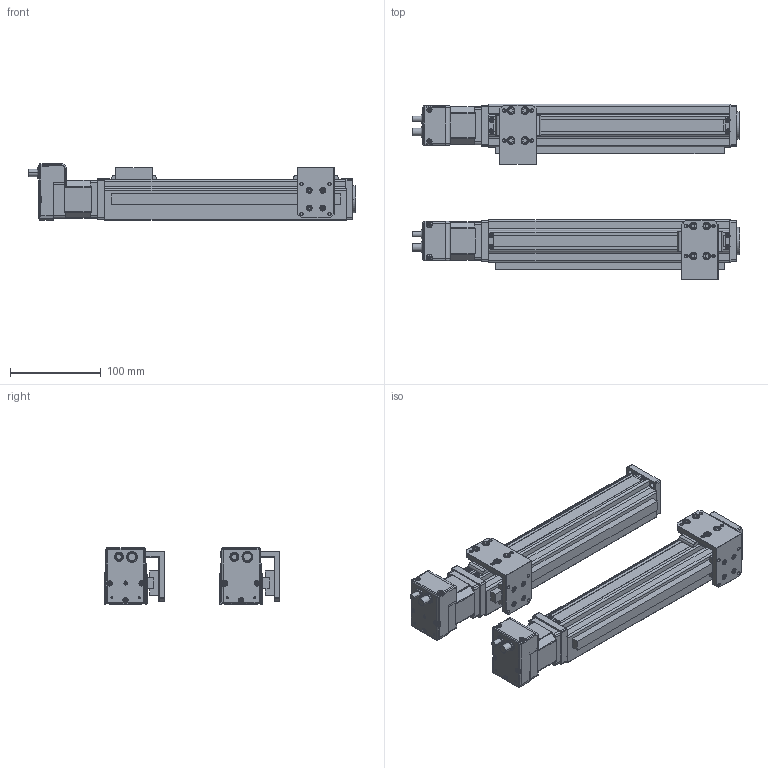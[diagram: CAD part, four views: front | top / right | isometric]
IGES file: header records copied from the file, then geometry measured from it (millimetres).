
Start section: IMSI TurboCAD v14.0
Global section: author: NULL; organization: NULL; date: 20100719.214155; units: millimetre
Bounding box: 360.5 x 192.89 x 62 mm (x, y, z)
Surface area: 290955.5 mm2 (no closed solid volume)
Topology: 0 solids, 0 shells, 3619 faces, 18484 edges, 18238 vertices
Faces by surface type: revolution 2260, extrusion 1339, bspline 20
